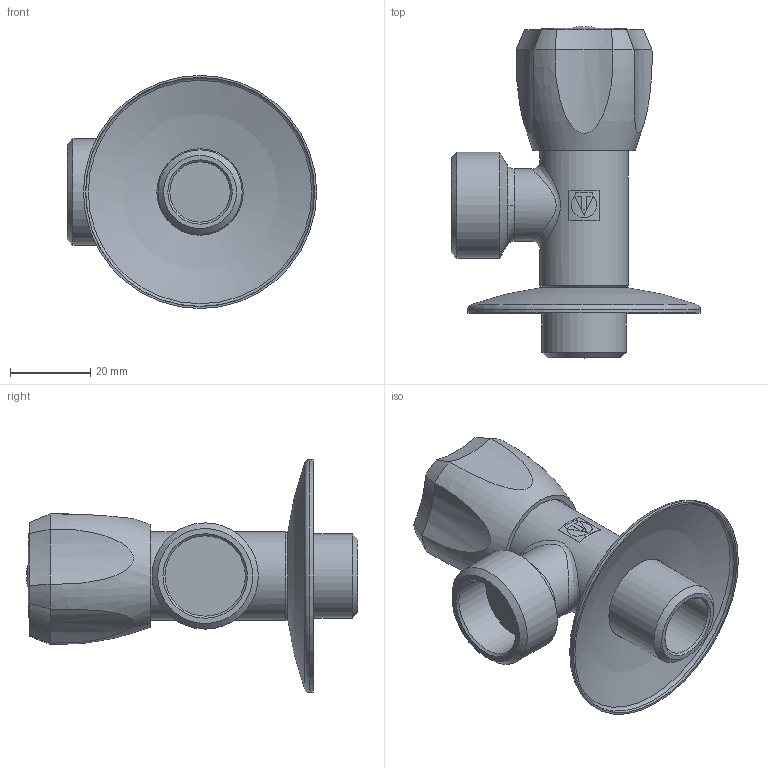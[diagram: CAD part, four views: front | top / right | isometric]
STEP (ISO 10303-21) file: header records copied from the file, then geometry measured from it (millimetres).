
FILE_DESCRIPTION(('STEP AP203'), '1');
FILE_NAME('VT.240.N.0405', '', ('UNSPECIFIED'), ('UNSPECIFIED'), 'C3D Converter', 'C3D Toolkit', '');
FILE_SCHEMA(('CONFIG_CONTROL_DESIGN'));
Length unit declared in the file: millimetre
Products named in the file (1): ВР.493176.041.000 СБ
Bounding box: 62 x 82.57 x 58 mm (x, y, z)
Volume: 37509.8 mm3; surface area: 20908.1 mm2
Topology: 2 solids, 5 shells, 241 faces, 584 edges, 365 vertices
Faces by surface type: plane 100, cylinder 55, extrusion 45, cone 24, torus 8, bspline 6, sphere 3
Full cylindrical faces by diameter (mm): 4 x1, 6 x1, 6.4 x1, 8 x1, 9 x1, 10.2 x1, 13 x2, 15 x1, 18 x1, 20 x2, 20.955 x1, 21.5 x1, 22 x1, 23 x1, 26.441 x1
Entity records: 11053 total; most frequent: CARTESIAN_POINT 5711, ORIENTED_EDGE 1090, DIRECTION 1001, EDGE_CURVE 545, AXIS2_PLACEMENT_3D 374, VERTEX_POINT 365, EDGE_LOOP 300, VECTOR 253
